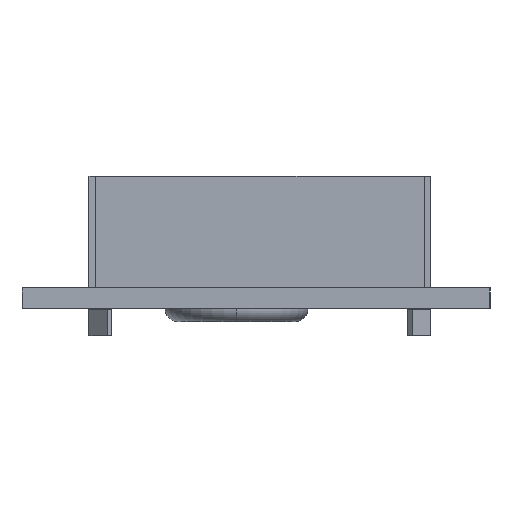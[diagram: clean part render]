
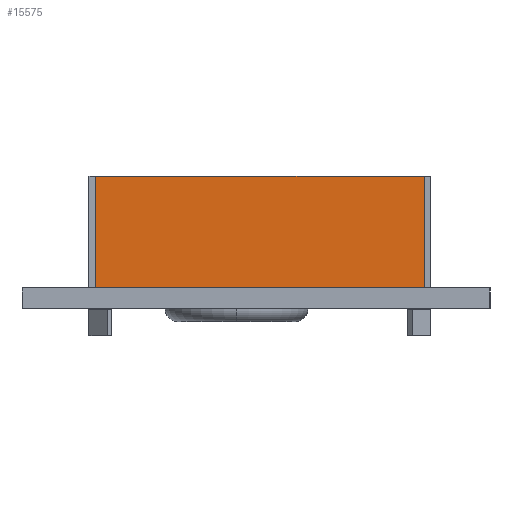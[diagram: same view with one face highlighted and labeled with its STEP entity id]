
A CAD part, left-side view. The second image highlights one B-rep face of the part: STEP entity #15575.
In plain terms, the highlighted planar face has unit normal (-1, 0, 0).
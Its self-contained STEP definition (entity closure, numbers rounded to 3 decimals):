
#251 = CARTESIAN_POINT ( 'NONE',  ( -35.65, 12.35, 10.2 ) ) ;
#435 = FACE_OUTER_BOUND ( 'NONE', #29826, .T. ) ;
#1229 = DIRECTION ( 'NONE',  ( 0., 0., -1. ) ) ;
#1783 = CARTESIAN_POINT ( 'NONE',  ( -35.65, 12.35, 10.2 ) ) ;
#4066 = CARTESIAN_POINT ( 'NONE',  ( -35.65, 12.35, 10.2 ) ) ;
#4228 = DIRECTION ( 'NONE',  ( 0., 0., -1. ) ) ;
#7420 = EDGE_CURVE ( 'NONE', #30072, #11226, #16553, .T. ) ;
#7434 = AXIS2_PLACEMENT_3D ( 'NONE', #30352, #15813, #1229 ) ;
#7751 = CARTESIAN_POINT ( 'NONE',  ( -35.65, 12.35, 1.6 ) ) ;
#9168 = VECTOR ( 'NONE', #21079, 1000. ) ;
#9185 = ORIENTED_EDGE ( 'NONE', *, *, #22227, .T. ) ;
#9697 = EDGE_CURVE ( 'NONE', #13141, #26048, #14876, .T. ) ;
#10031 = VECTOR ( 'NONE', #17219, 1000. ) ;
#10060 = VECTOR ( 'NONE', #10543, 1000. ) ;
#10438 = CARTESIAN_POINT ( 'NONE',  ( -35.65, 12.35, 1.6 ) ) ;
#10543 = DIRECTION ( 'NONE',  ( 0., -1., 0. ) ) ;
#10940 = ORIENTED_EDGE ( 'NONE', *, *, #7420, .T. ) ;
#11226 = VERTEX_POINT ( 'NONE', #12378 ) ;
#11683 = LINE ( 'NONE', #1783, #23803 ) ;
#12378 = CARTESIAN_POINT ( 'NONE',  ( -35.65, -12.95, 1.6 ) ) ;
#13141 = VERTEX_POINT ( 'NONE', #251 ) ;
#14658 = ORIENTED_EDGE ( 'NONE', *, *, #9697, .F. ) ;
#14876 = LINE ( 'NONE', #4066, #9168 ) ;
#15575 = ADVANCED_FACE ( 'NONE', ( #435 ), #20572, .F. ) ;
#15813 = DIRECTION ( 'NONE',  ( 1., 0., 0. ) ) ;
#16553 = LINE ( 'NONE', #10438, #10060 ) ;
#17219 = DIRECTION ( 'NONE',  ( 0., 0., -1. ) ) ;
#17320 = CARTESIAN_POINT ( 'NONE',  ( -35.65, -12.95, 10.2 ) ) ;
#20572 = PLANE ( 'NONE',  #7434 ) ;
#21079 = DIRECTION ( 'NONE',  ( 0., -1., 0. ) ) ;
#22143 = ORIENTED_EDGE ( 'NONE', *, *, #25362, .F. ) ;
#22227 = EDGE_CURVE ( 'NONE', #13141, #30072, #11683, .T. ) ;
#23803 = VECTOR ( 'NONE', #4228, 1000. ) ;
#25362 = EDGE_CURVE ( 'NONE', #26048, #11226, #28660, .T. ) ;
#26048 = VERTEX_POINT ( 'NONE', #30319 ) ;
#28660 = LINE ( 'NONE', #17320, #10031 ) ;
#29826 = EDGE_LOOP ( 'NONE', ( #10940, #22143, #14658, #9185 ) ) ;
#30072 = VERTEX_POINT ( 'NONE', #7751 ) ;
#30319 = CARTESIAN_POINT ( 'NONE',  ( -35.65, -12.95, 10.2 ) ) ;
#30352 = CARTESIAN_POINT ( 'NONE',  ( -35.65, 12.35, 10.2 ) ) ;
